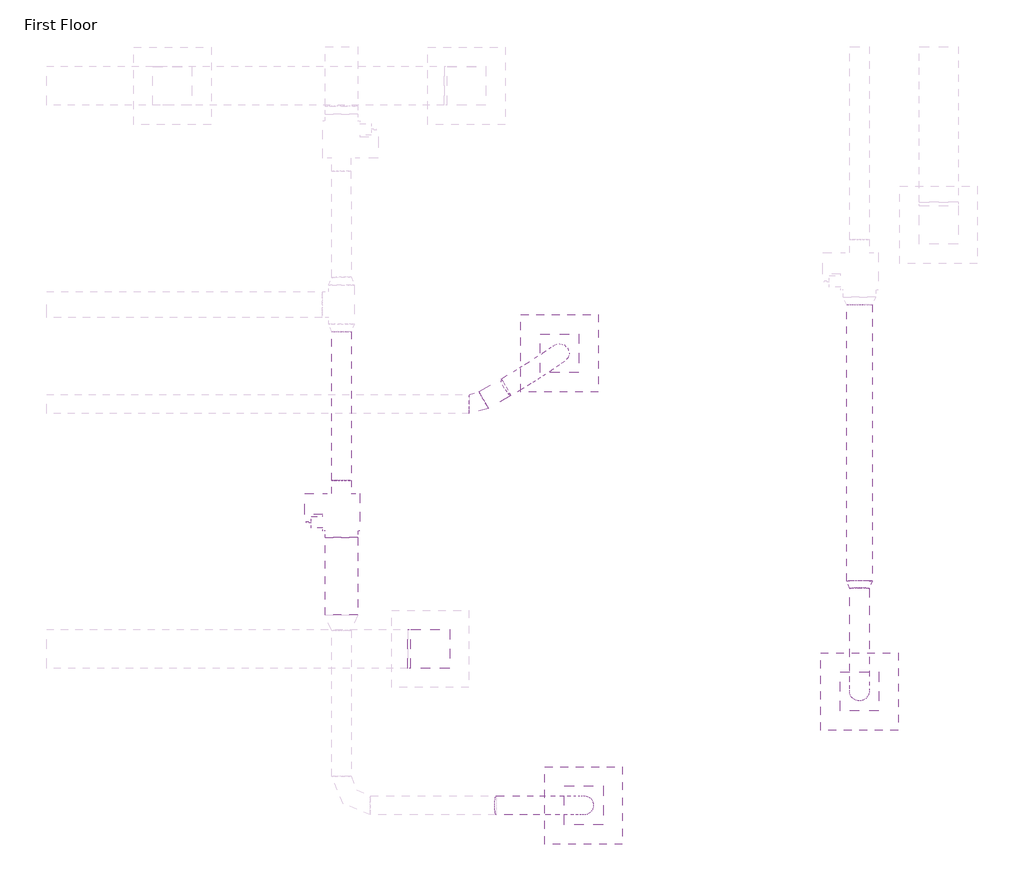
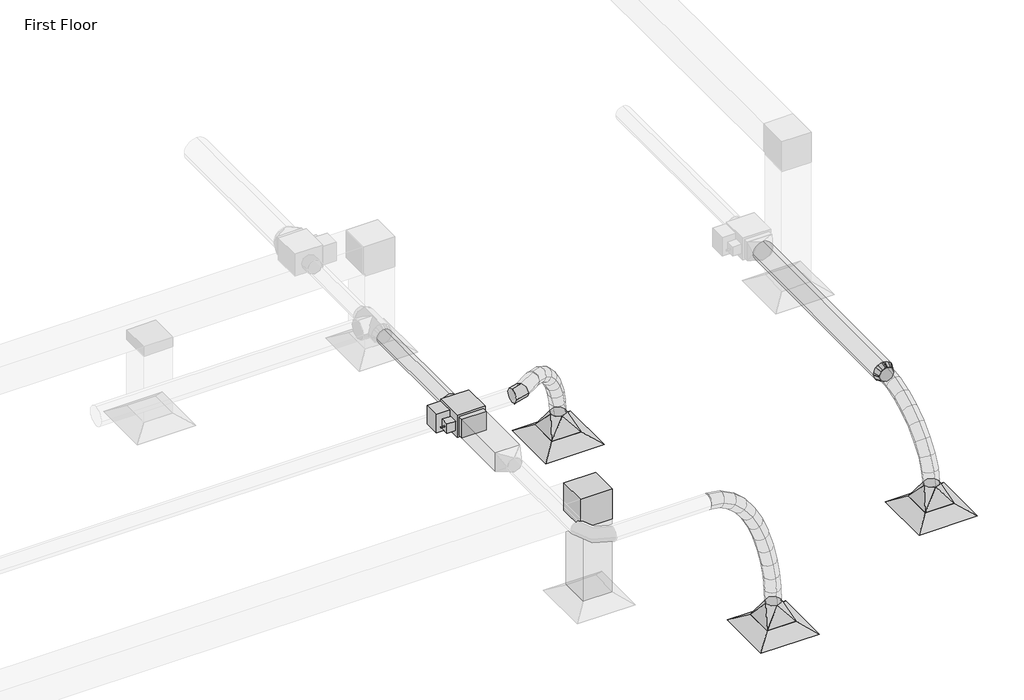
# One storey, part 48 of 61: 8 duct segments, 6 duct fittings, 3 air terminals, 1 proxy.
"""IFC4 building model written with IfcOpenShell, lengths in millimetres."""

from ifc_helpers import new_model, si_unit, point, frame, frame_2d, origin, place, context, project, spatial, polyline, circle_curve, ellipse_curve, trimmed, segment, composite_curve, outline, extrude, transform, mapped, element, save
from ifc_brep_helpers import plane_surface, cylinder_surface, advanced_brep
from components import m_exhaust_grill_er_600_x_600_face_300_x_300_connection_ff221211, m_vav_unit_single_duct_150_mm_ffdab17b, m_rectangular_elbow_mitered_standard_8eee5933, m_rectangular_to_round_transition_angle_45_degree_8f201c83, m_round_elbow_1_5_d_5294a869, m_round_transition_angle_45_degree_6d7b59ce

model = new_model("IFC4")

# Units and contexts
model_context = context("Model", 3, world=origin())
ifc_project = project(units=[si_unit("LENGTHUNIT", "METRE", prefix="MILLI")], contexts=[model_context])

# Site, building, storey
site = spatial("IfcSite", under=ifc_project)
building = spatial("IfcBuilding", under=site)
storey = spatial("IfcBuildingStorey", under=building, Name="First Floor", Elevation=0.0)

# Air terminals
placement = place(None, origin())
m_exhaust_grill_er_600_x_600_face_300_x_300_connection_shape = m_exhaust_grill_er_600_x_600_face_300_x_300_connection_ff221211(model_context)
element("IfcAirTerminal", 1, ObjectType="M_Supply Diffuser : SD-600 x 600 Face 300 x 300 Connection", at=placement, inside=storey, context=model_context, shape_type="MappedRepresentation", body=[
    mapped(m_exhaust_grill_er_600_x_600_face_300_x_300_connection_shape, transform((-19243.7025552, 37174.1707995, 2680.0), x_axis=(1.0, 0.0, 0.0), y_axis=(0.0, 1.0, 0.0), z_axis=(0.0, 0.0, 1.0))),
])
element("IfcAirTerminal", 2, ObjectType="M_Supply Diffuser : SD-600 x 600 Face 300 x 300 Connection", at=placement, inside=storey, context=model_context, shape_type="MappedRepresentation", body=[
    mapped(m_exhaust_grill_er_600_x_600_face_300_x_300_connection_shape, transform((-21379.3328097, 36291.042011, 2680.0), x_axis=(1.0, 0.0, 0.0), y_axis=(0.0, 1.0, 0.0), z_axis=(0.0, 0.0, 1.0))),
])
element("IfcAirTerminal", 3, ObjectType="M_Supply Diffuser : SD-600 x 600 Face 300 x 300 Connection", at=placement, inside=storey, context=model_context, shape_type="MappedRepresentation", body=[
    mapped(m_exhaust_grill_er_600_x_600_face_300_x_300_connection_shape, transform((-21566.6894497, 39795.7306312, 2680.0), x_axis=(1.0, 0.0, 0.0), y_axis=(0.0, 1.0, 0.0), z_axis=(0.0, 0.0, 1.0))),
])

# Proxy
m_vav_unit_single_duct_150_mm_shape = m_vav_unit_single_duct_150_mm_ffdab17b(model_context)
element("IfcBuildingElementProxy", 4, Name="M_VAV Unit - Single Duct : 150 mm", ObjectType="M_VAV Unit - Single Duct : 150 mm", at=placement, inside=storey, context=model_context, shape_type="MappedRepresentation", body=[
    mapped(m_vav_unit_single_duct_150_mm_shape, transform((-23256.5951693, 38708.9512227, 4159.975), x_axis=(0.0, -1.0, 0.0), y_axis=(1.0000000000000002, 0.0, 0.0), z_axis=(0.0, 0.0, 1.0000000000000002))),
])

# Duct fittings
m_rectangular_elbow_mitered_standard_shape = m_rectangular_elbow_mitered_standard_8eee5933(model_context)
element("IfcDuctFitting", 5, ObjectType="M_Rectangular Elbow - Mitered : Standard", at=placement, inside=storey, context=model_context, shape_type="MappedRepresentation", body=[
    mapped(m_rectangular_elbow_mitered_standard_shape, transform((-22568.0356534, 37503.8775197, 3750.0), x_axis=(0.0, 0.0, 1.0), y_axis=(-1.0, 0.0, 0.0), z_axis=(0.0, -1.0, 0.0))),
])
m_rectangular_to_round_transition_angle_45_degree_shape = m_rectangular_to_round_transition_angle_45_degree_8f201c83(model_context)
element("IfcDuctFitting", 6, ObjectType="M_Rectangular to Round Transition - Angle : 45 Degree", at=placement, inside=storey, context=model_context, shape_type="MappedRepresentation", body=[
    mapped(m_rectangular_to_round_transition_angle_45_degree_shape, transform((-19243.7025552, 37174.1707995, 2781.6), x_axis=(0.0, 0.0, 1.0), y_axis=(1.0, 0.0, 0.0), z_axis=(0.0, 1.0, 0.0))),
])
element("IfcDuctFitting", 7, ObjectType="M_Rectangular to Round Transition - Angle : 45 Degree", at=placement, inside=storey, context=model_context, shape_type="MappedRepresentation", body=[
    mapped(m_rectangular_to_round_transition_angle_45_degree_shape, transform((-21566.6894497, 39795.7306312, 2781.6), x_axis=(0.0, 0.0, 1.0), y_axis=(1.0, 0.0, 0.0), z_axis=(0.0, 1.0, 0.0))),
])
element("IfcDuctFitting", 8, ObjectType="M_Rectangular to Round Transition - Angle : 45 Degree", at=placement, inside=storey, context=model_context, shape_type="MappedRepresentation", body=[
    mapped(m_rectangular_to_round_transition_angle_45_degree_shape, transform((-21379.3328097, 36291.042011, 2781.6), x_axis=(0.0, 0.0, 1.0), y_axis=(1.0, 0.0, 0.0), z_axis=(0.0, 1.0, 0.0))),
])
m_round_elbow_1_5_d_shape = m_round_elbow_1_5_d_5294a869(model_context)
element("IfcDuctFitting", 9, ObjectType="M_Round Elbow : 1.5 D", at=placement, inside=storey, context=model_context, shape_type="MappedRepresentation", body=[
    mapped(m_round_elbow_1_5_d_shape, transform((-22206.3408383, 39401.9183838, 3619.1), x_axis=(1.0, 0.0, 0.0), y_axis=(0.0, 1.0, 0.0), z_axis=(0.0, 0.0, 1.0))),
])
m_round_transition_angle_45_degree_shape = m_round_transition_angle_45_degree_6d7b59ce(model_context)
element("IfcDuctFitting", 10, ObjectType="M_Round Transition - Angle : 45 Degree", at=placement, inside=storey, context=model_context, shape_type="MappedRepresentation", body=[
    mapped(m_round_transition_angle_45_degree_shape, transform((-19243.7025552, 38032.1003018, 3659.6), x_axis=(0.0, -0.9999900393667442, -0.004463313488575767), y_axis=(1.0, 0.0, 0.0), z_axis=(0.0, -0.004463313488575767, 0.9999900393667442))),
])

# Duct segments
element("IfcDuctSegment", 11, ObjectType="Flex - Round", at=placement, inside=storey, context=model_context, shape_type="AdvancedBrep", body=[
    advanced_brep(
    [(-19168.7025552, 37971.7455639, 3659.3306152), (-19243.7025552, 37980.4835114, 3584.8413658), (-19318.7025552, 37971.7455639, 3659.3306152), (-19243.7025552, 37963.0076164, 3733.8198646), (-19168.7025552, 37836.126803, 3643.4218817), (-19243.7025552, 37852.0318652, 3569.7733693), (-19318.7025552, 37836.126803, 3643.4218817), (-19243.7025552, 37820.2217407, 3717.070394), (-19168.7025552, 37174.1707995, 2962.6660172), (-19243.7025552, 37100.0096876, 2973.852146), (-19318.7025552, 37174.1707995, 2962.6660172), (-19243.7025552, 37248.3319114, 2951.4798883), (-19168.7025552, 37698.2050404, 3599.4524075), (-19243.7025552, 37726.791731, 3529.8467998), (-19318.7025552, 37698.2050404, 3599.4524075), (-19243.7025552, 37669.6183498, 3669.0580152), (-19168.7025552, 37564.2634793, 3531.2848), (-19243.7025552, 37603.3155351, 3467.0053876), (-19318.7025552, 37564.2634793, 3531.2848), (-19243.7025552, 37525.2114234, 3595.5642124), (-19168.7025552, 37440.5853226, 3442.7816664), (-19243.7025552, 37488.9403957, 3385.1594213), (-19318.7025552, 37440.5853226, 3442.7816664), (-19243.7025552, 37392.2302494, 3500.4039116), (-19168.7025552, 37333.4537732, 3337.8056141), (-19243.7025552, 37390.6055403, 3288.8030725), (-19318.7025552, 37333.4537732, 3337.8056141), (-19243.7025552, 37276.3020062, 3386.8081556), (-19168.7025552, 37249.1520343, 3220.2192502), (-19243.7025552, 37314.714054, 3182.9475584), (-19318.7025552, 37249.1520343, 3220.2192502), (-19243.7025552, 37183.5900146, 3257.490942), (-19168.7025552, 37193.9633087, 3093.8851822), (-19243.7025552, 37266.6497114, 3072.9221163), (-19318.7025552, 37193.9633087, 3093.8851822), (-19243.7025552, 37121.276906, 3114.848248)],
    [
        (0, 1, circle_curve(frame((-19243.7025552, 37971.7455639, 3659.3306152), z_axis=(0.0, 0.993189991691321, 0.11650596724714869), x_axis=(1.0, 0.0, 0.0)), 75.0)),
        (1, 2, circle_curve(frame((-19243.7025552, 37971.7455639, 3659.3306152), z_axis=(0.0, 0.993189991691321, 0.11650596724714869), x_axis=(1.0, 0.0, 0.0)), 75.0)),
        (2, 3, circle_curve(frame((-19243.7025552, 37971.7455639, 3659.3306152), z_axis=(0.0, 0.993189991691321, 0.11650596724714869), x_axis=(1.0, 0.0, 0.0)), 75.0)),
        (3, 0, circle_curve(frame((-19243.7025552, 37971.7455639, 3659.3306152), z_axis=(0.0, 0.993189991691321, 0.11650596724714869), x_axis=(1.0, 0.0, 0.0)), 75.0)),
        (0, 4),
        (4, 5, ellipse_curve(frame((-19243.7025552, 37836.126803, 3643.4218817), z_axis=(0.0, 0.9774660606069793, 0.21109263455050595), x_axis=(0.0, 0.21109263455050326, -0.9774660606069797)), 75.3463627, 75.0)),
        (5, 1),
        (5, 6, ellipse_curve(frame((-19243.7025552, 37836.126803, 3643.4218817), z_axis=(0.0, 0.9774660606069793, 0.21109263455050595), x_axis=(0.0, 0.21109263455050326, -0.9774660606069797)), 75.3463627, 75.0)),
        (6, 2),
        (6, 7, ellipse_curve(frame((-19243.7025552, 37836.126803, 3643.4218817), z_axis=(0.0, 0.9774660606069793, 0.21109263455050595), x_axis=(0.0, 0.21109263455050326, -0.9774660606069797)), 75.3463627, 75.0)),
        (7, 3),
        (7, 4, ellipse_curve(frame((-19243.7025552, 37836.126803, 3643.4218817), z_axis=(0.0, 0.9774660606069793, 0.21109263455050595), x_axis=(0.0, 0.21109263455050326, -0.9774660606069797)), 75.3463627, 75.0)),
        (8, 9, circle_curve(frame((-19243.7025552, 37174.1707995, 2962.6660172), z_axis=(0.0, -0.14914838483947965, -0.9888148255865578), x_axis=(1.0, 0.0, 0.0)), 75.0)),
        (9, 10, circle_curve(frame((-19243.7025552, 37174.1707995, 2962.6660172), z_axis=(0.0, -0.14914838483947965, -0.9888148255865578), x_axis=(1.0, 0.0, 0.0)), 75.0)),
        (10, 11, circle_curve(frame((-19243.7025552, 37174.1707995, 2962.6660172), z_axis=(0.0, -0.14914838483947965, -0.9888148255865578), x_axis=(1.0, 0.0, 0.0)), 75.0)),
        (11, 8, circle_curve(frame((-19243.7025552, 37174.1707995, 2962.6660172), z_axis=(0.0, -0.14914838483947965, -0.9888148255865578), x_axis=(1.0, 0.0, 0.0)), 75.0)),
        (4, 12),
        (12, 13, ellipse_curve(frame((-19243.7025552, 37698.2050404, 3599.4524075), z_axis=(0.0, 0.925026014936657, 0.37990376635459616), x_axis=(0.0, 0.3799037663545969, -0.9250260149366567)), 75.2471893, 75.0)),
        (13, 5),
        (13, 14, ellipse_curve(frame((-19243.7025552, 37698.2050404, 3599.4524075), z_axis=(0.0, 0.925026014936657, 0.37990376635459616), x_axis=(0.0, 0.3799037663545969, -0.9250260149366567)), 75.2471893, 75.0)),
        (14, 6),
        (14, 15, ellipse_curve(frame((-19243.7025552, 37698.2050404, 3599.4524075), z_axis=(0.0, 0.925026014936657, 0.37990376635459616), x_axis=(0.0, 0.3799037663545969, -0.9250260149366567)), 75.2471893, 75.0)),
        (15, 7),
        (15, 12, ellipse_curve(frame((-19243.7025552, 37698.2050404, 3599.4524075), z_axis=(0.0, 0.925026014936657, 0.37990376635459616), x_axis=(0.0, 0.3799037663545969, -0.9250260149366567)), 75.2471893, 75.0)),
        (12, 16),
        (16, 17, ellipse_curve(frame((-19243.7025552, 37564.2634793, 3531.2848), z_axis=(0.0, 0.8546384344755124, 0.5192235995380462), x_axis=(0.0, 0.5192235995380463, -0.8546384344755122)), 75.2124054, 75.0)),
        (17, 13),
        (17, 18, ellipse_curve(frame((-19243.7025552, 37564.2634793, 3531.2848), z_axis=(0.0, 0.8546384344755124, 0.5192235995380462), x_axis=(0.0, 0.5192235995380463, -0.8546384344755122)), 75.2124054, 75.0)),
        (18, 14),
        (18, 19, ellipse_curve(frame((-19243.7025552, 37564.2634793, 3531.2848), z_axis=(0.0, 0.8546384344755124, 0.5192235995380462), x_axis=(0.0, 0.5192235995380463, -0.8546384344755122)), 75.2124054, 75.0)),
        (19, 15),
        (19, 16, ellipse_curve(frame((-19243.7025552, 37564.2634793, 3531.2848), z_axis=(0.0, 0.8546384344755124, 0.5192235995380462), x_axis=(0.0, 0.5192235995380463, -0.8546384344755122)), 75.2124054, 75.0)),
        (16, 20),
        (20, 21, ellipse_curve(frame((-19243.7025552, 37440.5853226, 3442.7816664), z_axis=(0.0, 0.7660165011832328, 0.6428209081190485), x_axis=(0.0, 0.6428209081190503, -0.7660165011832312)), 75.2232426, 75.0)),
        (21, 17),
        (21, 22, ellipse_curve(frame((-19243.7025552, 37440.5853226, 3442.7816664), z_axis=(0.0, 0.7660165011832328, 0.6428209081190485), x_axis=(0.0, 0.6428209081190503, -0.7660165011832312)), 75.2232426, 75.0)),
        (22, 18),
        (22, 23, ellipse_curve(frame((-19243.7025552, 37440.5853226, 3442.7816664), z_axis=(0.0, 0.7660165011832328, 0.6428209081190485), x_axis=(0.0, 0.6428209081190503, -0.7660165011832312)), 75.2232426, 75.0)),
        (23, 19),
        (23, 20, ellipse_curve(frame((-19243.7025552, 37440.5853226, 3442.7816664), z_axis=(0.0, 0.7660165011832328, 0.6428209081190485), x_axis=(0.0, 0.6428209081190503, -0.7660165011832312)), 75.2232426, 75.0)),
        (20, 24),
        (24, 25, ellipse_curve(frame((-19243.7025552, 37333.4537732, 3337.8056141), z_axis=(0.0, 0.6509086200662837, 0.7591560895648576), x_axis=(0.0, 0.759156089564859, -0.6509086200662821)), 75.2832887, 75.0)),
        (25, 21),
        (25, 26, ellipse_curve(frame((-19243.7025552, 37333.4537732, 3337.8056141), z_axis=(0.0, 0.6509086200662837, 0.7591560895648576), x_axis=(0.0, 0.759156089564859, -0.6509086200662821)), 75.2832887, 75.0)),
        (26, 22),
        (26, 27, ellipse_curve(frame((-19243.7025552, 37333.4537732, 3337.8056141), z_axis=(0.0, 0.6509086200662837, 0.7591560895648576), x_axis=(0.0, 0.759156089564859, -0.6509086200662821)), 75.2832887, 75.0)),
        (27, 23),
        (27, 24, ellipse_curve(frame((-19243.7025552, 37333.4537732, 3337.8056141), z_axis=(0.0, 0.6509086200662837, 0.7591560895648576), x_axis=(0.0, 0.759156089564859, -0.6509086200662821)), 75.2832887, 75.0)),
        (24, 28),
        (28, 29, ellipse_curve(frame((-19243.7025552, 37249.1520343, 3220.2192502), z_axis=(0.0, 0.49421532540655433, 0.8693395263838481), x_axis=(0.0, 0.8693395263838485, -0.4942153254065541)), 75.4158965, 75.0)),
        (29, 25),
        (29, 30, ellipse_curve(frame((-19243.7025552, 37249.1520343, 3220.2192502), z_axis=(0.0, 0.49421532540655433, 0.8693395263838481), x_axis=(0.0, 0.8693395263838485, -0.4942153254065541)), 75.4158965, 75.0)),
        (30, 26),
        (30, 31, ellipse_curve(frame((-19243.7025552, 37249.1520343, 3220.2192502), z_axis=(0.0, 0.49421532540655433, 0.8693395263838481), x_axis=(0.0, 0.8693395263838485, -0.4942153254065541)), 75.4158965, 75.0)),
        (31, 27),
        (31, 28, ellipse_curve(frame((-19243.7025552, 37249.1520343, 3220.2192502), z_axis=(0.0, 0.49421532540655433, 0.8693395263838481), x_axis=(0.0, 0.8693395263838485, -0.4942153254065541)), 75.4158965, 75.0)),
        (28, 32),
        (32, 33, ellipse_curve(frame((-19243.7025552, 37193.9633087, 3093.8851822), z_axis=(0.0, 0.27710981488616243, 0.9608382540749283), x_axis=(0.0, 0.9608382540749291, -0.2771098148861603)), 75.6489475, 75.0)),
        (33, 29),
        (33, 34, ellipse_curve(frame((-19243.7025552, 37193.9633087, 3093.8851822), z_axis=(0.0, 0.27710981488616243, 0.9608382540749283), x_axis=(0.0, 0.9608382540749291, -0.2771098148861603)), 75.6489475, 75.0)),
        (34, 30),
        (34, 35, ellipse_curve(frame((-19243.7025552, 37193.9633087, 3093.8851822), z_axis=(0.0, 0.27710981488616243, 0.9608382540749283), x_axis=(0.0, 0.9608382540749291, -0.2771098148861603)), 75.6489475, 75.0)),
        (35, 31),
        (35, 32, ellipse_curve(frame((-19243.7025552, 37193.9633087, 3093.8851822), z_axis=(0.0, 0.27710981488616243, 0.9608382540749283), x_axis=(0.0, 0.9608382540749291, -0.2771098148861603)), 75.6489475, 75.0)),
        (32, 8),
        (11, 33),
        (10, 34),
        (9, 35),
    ],
    [
        plane_surface(frame((-19243.7025552, 37980.4835114, 3584.8413658), z_axis=(0.0, 0.99318999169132, 0.1165059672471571), x_axis=(1.0, 0.0, 0.0))),
        cylinder_surface(frame((-19243.7025552, 37971.7455639, 3659.3306152), z_axis=(0.0, 0.993189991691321, 0.11650596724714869), x_axis=(1.0, 0.0, 0.0)), 75.0),
        plane_surface(frame((-19243.7025552, 37248.3319114, 2951.4798883), z_axis=(0.0, -0.14914838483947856, -0.9888148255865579), x_axis=(1.0, 0.0, 0.0))),
        cylinder_surface(frame((-19243.7025552, 37836.126803, 3643.4218817), z_axis=(0.0, 0.9527554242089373, 0.3037385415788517), x_axis=(1.0, 0.0, 0.0)), 75.0),
        cylinder_surface(frame((-19243.7025552, 37698.2050404, 3599.4524075), z_axis=(0.0, 0.8912191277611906, 0.4535729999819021), x_axis=(1.0, 0.0, 0.0)), 75.0),
        cylinder_surface(frame((-19243.7025552, 37564.2634793, 3531.2848), z_axis=(0.0, 0.8132306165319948, 0.5819415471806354), x_axis=(1.0, 0.0, 0.0)), 75.0),
        cylinder_surface(frame((-19243.7025552, 37440.5853226, 3442.7816664), z_axis=(0.0, 0.7142557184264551, 0.6998848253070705), x_axis=(1.0, 0.0, 0.0)), 75.0),
        cylinder_surface(frame((-19243.7025552, 37333.4537732, 3337.8056141), z_axis=(0.0, 0.5826628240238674, 0.8127139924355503), x_axis=(1.0, 0.0, 0.0)), 75.0),
        cylinder_surface(frame((-19243.7025552, 37249.1520343, 3220.2192502), z_axis=(0.0, 0.4003169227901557, 0.916376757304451), x_axis=(1.0, 0.0, 0.0)), 75.0),
        cylinder_surface(frame((-19243.7025552, 37193.9633087, 3093.8851822), z_axis=(0.0, 0.14914838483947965, 0.9888148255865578), x_axis=(1.0, 0.0, 0.0)), 75.0),
    ],
    [
        (0, [[1, 2, 3, 4]]),
        (1, [[-1, 5, 6, 7]]),
        (1, [[-2, -7, 8, 9]]),
        (1, [[-3, -9, 10, 11]]),
        (1, [[-4, -11, 12, -5]]),
        (2, [[13, 14, 15, 16]]),
        (3, [[-6, 17, 18, 19]]),
        (3, [[-8, -19, 20, 21]]),
        (3, [[-10, -21, 22, 23]]),
        (3, [[-12, -23, 24, -17]]),
        (4, [[-18, 25, 26, 27]]),
        (4, [[-20, -27, 28, 29]]),
        (4, [[-22, -29, 30, 31]]),
        (4, [[-24, -31, 32, -25]]),
        (5, [[-26, 33, 34, 35]]),
        (5, [[-28, -35, 36, 37]]),
        (5, [[-30, -37, 38, 39]]),
        (5, [[-32, -39, 40, -33]]),
        (6, [[-34, 41, 42, 43]]),
        (6, [[-36, -43, 44, 45]]),
        (6, [[-38, -45, 46, 47]]),
        (6, [[-40, -47, 48, -41]]),
        (7, [[-42, 49, 50, 51]]),
        (7, [[-44, -51, 52, 53]]),
        (7, [[-46, -53, 54, 55]]),
        (7, [[-48, -55, 56, -49]]),
        (8, [[-50, 57, 58, 59]]),
        (8, [[-52, -59, 60, 61]]),
        (8, [[-54, -61, 62, 63]]),
        (8, [[-56, -63, 64, -57]]),
        (9, [[-58, 65, -16, 66]]),
        (9, [[-60, -66, -15, 67]]),
        (9, [[-62, -67, -14, 68]]),
        (9, [[-64, -68, -13, -65]]),
    ],
),
])
element("IfcDuctSegment", 12, ObjectType="Flex - Round", at=placement, inside=storey, context=model_context, shape_type="AdvancedBrep", body=[
    advanced_brep(
    [(-22019.3465211, 39596.4774765, 3619.1), (-21993.4953064, 39524.6332203, 3545.4785524), (-21943.0019456, 39467.3592911, 3619.1), (-21968.8531602, 39539.2035473, 3692.7214476), (-21922.390417, 39653.8053625, 3597.2008616), (-21906.724724, 39575.9386446, 3525.8799824), (-21844.9820623, 39525.316165, 3596.9605895), (-21860.6477554, 39603.1828829, 3668.2814687), (-21606.4200945, 39859.3409784, 2963.112768), (-21503.4024078, 39835.2042254, 2970.5136725), (-21526.9588048, 39732.120284, 2962.2192663), (-21629.9764915, 39756.2570369, 2954.8183619), (-21834.9345969, 39707.7699818, 3537.3971476), (-21834.8401406, 39620.2950312, 3476.7241337), (-21756.0472846, 39580.1933752, 3536.1455402), (-21756.1417408, 39667.6683257, 3596.8185542), (-21758.4447154, 39756.6982129, 3447.8105295), (-21768.0507937, 39663.018128, 3398.4989932), (-21678.8910765, 39629.5478349, 3445.7785059), (-21669.2849983, 39723.2279199, 3495.0900421), (-21695.1717788, 39798.4370438, 3336.9611255), (-21710.9615638, 39700.6777948, 3298.4829762), (-21615.4215512, 39671.4163482, 3334.5846932), (-21599.6317662, 39769.1755972, 3373.0628425), (-21647.3026596, 39830.8647608, 3213.4418926), (-21667.3228856, 39730.2397072, 3185.879775), (-21567.6109549, 39703.8044204, 3211.2164703), (-21547.590729, 39804.429474, 3238.7785879), (-21616.9829649, 39851.8816935, 3085.8166288), (-21639.9476625, 39749.2155981, 3070.6487314), (-21537.4727998, 39724.6955139, 3084.3553643), (-21514.5081021, 39827.3616093, 3099.5232617)],
    [
        (0, 1, circle_curve(frame((-21981.1742333, 39531.9183838, 3619.1), z_axis=(-0.844966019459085, -0.49960872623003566, 0.19084953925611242), x_axis=(-0.5089638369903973, 0.8607879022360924, 0.0)), 75.0)),
        (1, 2, circle_curve(frame((-21981.1742333, 39531.9183838, 3619.1), z_axis=(-0.844966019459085, -0.49960872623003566, 0.19084953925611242), x_axis=(-0.5089638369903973, 0.8607879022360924, 0.0)), 75.0)),
        (2, 3, circle_curve(frame((-21981.1742333, 39531.9183838, 3619.1), z_axis=(-0.844966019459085, -0.49960872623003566, 0.19084953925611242), x_axis=(-0.5089638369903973, 0.8607879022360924, 0.0)), 75.0)),
        (3, 0, circle_curve(frame((-21981.1742333, 39531.9183838, 3619.1), z_axis=(-0.844966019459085, -0.49960872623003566, 0.19084953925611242), x_axis=(-0.5089638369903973, 0.8607879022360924, 0.0)), 75.0)),
        (0, 4),
        (4, 5, ellipse_curve(frame((-21883.6862397, 39589.5607638, 3597.0807256), z_axis=(-0.8015025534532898, -0.483523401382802, 0.35185050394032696), x_axis=(-0.3277169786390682, -0.1369956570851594, -0.934790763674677)), 76.067575, 75.0)),
        (5, 1),
        (5, 6, ellipse_curve(frame((-21883.6862397, 39589.5607638, 3597.0807256), z_axis=(-0.8015025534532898, -0.483523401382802, 0.35185050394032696), x_axis=(-0.3277169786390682, -0.1369956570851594, -0.934790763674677)), 76.067575, 75.0)),
        (6, 2),
        (6, 7, ellipse_curve(frame((-21883.6862397, 39589.5607638, 3597.0807256), z_axis=(-0.8015025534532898, -0.483523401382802, 0.35185050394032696), x_axis=(-0.3277169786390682, -0.1369956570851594, -0.934790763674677)), 76.067575, 75.0)),
        (7, 3),
        (7, 4, ellipse_curve(frame((-21883.6862397, 39589.5607638, 3597.0807256), z_axis=(-0.8015025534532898, -0.483523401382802, 0.35185050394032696), x_axis=(-0.3277169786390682, -0.1369956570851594, -0.934790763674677)), 76.067575, 75.0)),
        (8, 9, circle_curve(frame((-21566.6894497, 39795.7306312, 2962.6660172), z_axis=(0.08561017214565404, 0.06045616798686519, -0.9944928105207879), x_axis=(-0.5297419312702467, 0.8481379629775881, 0.005956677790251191)), 75.0)),
        (9, 10, circle_curve(frame((-21566.6894497, 39795.7306312, 2962.6660172), z_axis=(0.08561017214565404, 0.06045616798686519, -0.9944928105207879), x_axis=(-0.5297419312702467, 0.8481379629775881, 0.005956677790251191)), 75.0)),
        (10, 11, circle_curve(frame((-21566.6894497, 39795.7306312, 2962.6660172), z_axis=(0.08561017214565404, 0.06045616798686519, -0.9944928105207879), x_axis=(-0.5297419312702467, 0.8481379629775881, 0.005956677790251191)), 75.0)),
        (11, 8, circle_curve(frame((-21566.6894497, 39795.7306312, 2962.6660172), z_axis=(0.08561017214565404, 0.06045616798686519, -0.9944928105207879), x_axis=(-0.5297419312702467, 0.8481379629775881, 0.005956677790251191)), 75.0)),
        (4, 12),
        (12, 13, ellipse_curve(frame((-21795.4909407, 39643.9816785, 3536.7713439), z_axis=(-0.672933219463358, -0.4220695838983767, 0.6074686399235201), x_axis=(-0.5407365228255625, -0.2796849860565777, -0.7933349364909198)), 75.5991106, 75.0)),
        (13, 5),
        (13, 14, ellipse_curve(frame((-21795.4909407, 39643.9816785, 3536.7713439), z_axis=(-0.672933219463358, -0.4220695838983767, 0.6074686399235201), x_axis=(-0.5407365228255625, -0.2796849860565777, -0.7933349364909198)), 75.5991106, 75.0)),
        (14, 6),
        (14, 15, ellipse_curve(frame((-21795.4909407, 39643.9816785, 3536.7713439), z_axis=(-0.672933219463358, -0.4220695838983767, 0.6074686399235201), x_axis=(-0.5407365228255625, -0.2796849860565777, -0.7933349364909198)), 75.5991106, 75.0)),
        (15, 7),
        (15, 12, ellipse_curve(frame((-21795.4909407, 39643.9816785, 3536.7713439), z_axis=(-0.672933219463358, -0.4220695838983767, 0.6074686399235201), x_axis=(-0.5407365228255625, -0.2796849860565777, -0.7933349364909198)), 75.5991106, 75.0)),
        (12, 16),
        (16, 17, ellipse_curve(frame((-21718.667896, 39693.1230239, 3446.7945177), z_axis=(-0.5379079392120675, -0.34881543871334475, 0.7674521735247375), x_axis=(-0.6682854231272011, -0.3784822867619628, -0.6404262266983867)), 75.348957, 75.0)),
        (17, 13),
        (17, 18, ellipse_curve(frame((-21718.667896, 39693.1230239, 3446.7945177), z_axis=(-0.5379079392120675, -0.34881543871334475, 0.7674521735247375), x_axis=(-0.6682854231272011, -0.3784822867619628, -0.6404262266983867)), 75.348957, 75.0)),
        (18, 14),
        (18, 19, ellipse_curve(frame((-21718.667896, 39693.1230239, 3446.7945177), z_axis=(-0.5379079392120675, -0.34881543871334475, 0.7674521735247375), x_axis=(-0.6682854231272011, -0.3784822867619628, -0.6404262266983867)), 75.348957, 75.0)),
        (19, 15),
        (19, 16, ellipse_curve(frame((-21718.667896, 39693.1230239, 3446.7945177), z_axis=(-0.5379079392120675, -0.34881543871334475, 0.7674521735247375), x_axis=(-0.6682854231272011, -0.3784822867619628, -0.6404262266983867)), 75.348957, 75.0)),
        (16, 20),
        (20, 21, ellipse_curve(frame((-21655.296665, 39734.926696, 3335.7729093), z_axis=(-0.4124376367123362, -0.27519726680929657, 0.868424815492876), x_axis=(-0.7422683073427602, -0.45114378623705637, -0.49548667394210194)), 75.246981, 75.0)),
        (21, 17),
        (21, 22, ellipse_curve(frame((-21655.296665, 39734.926696, 3335.7729093), z_axis=(-0.4124376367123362, -0.27519726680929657, 0.868424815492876), x_axis=(-0.7422683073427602, -0.45114378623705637, -0.49548667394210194)), 75.246981, 75.0)),
        (22, 18),
        (22, 23, ellipse_curve(frame((-21655.296665, 39734.926696, 3335.7729093), z_axis=(-0.4124376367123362, -0.27519726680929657, 0.868424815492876), x_axis=(-0.7422683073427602, -0.45114378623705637, -0.49548667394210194)), 75.246981, 75.0)),
        (23, 19),
        (23, 20, ellipse_curve(frame((-21655.296665, 39734.926696, 3335.7729093), z_axis=(-0.4124376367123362, -0.27519726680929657, 0.868424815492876), x_axis=(-0.7422683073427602, -0.45114378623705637, -0.49548667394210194)), 75.246981, 75.0)),
        (20, 24),
        (24, 25, ellipse_curve(frame((-21607.4568073, 39767.3345906, 3212.3291814), z_axis=(-0.2904972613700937, -0.1985931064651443, 0.9360406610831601), x_axis=(-0.785513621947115, -0.5091228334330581, -0.3517986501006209)), 75.2300566, 75.0)),
        (25, 21),
        (25, 26, ellipse_curve(frame((-21607.4568073, 39767.3345906, 3212.3291814), z_axis=(-0.2904972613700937, -0.1985931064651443, 0.9360406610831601), x_axis=(-0.785513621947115, -0.5091228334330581, -0.3517986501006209)), 75.2300566, 75.0)),
        (26, 22),
        (26, 27, ellipse_curve(frame((-21607.4568073, 39767.3345906, 3212.3291814), z_axis=(-0.2904972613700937, -0.1985931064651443, 0.9360406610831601), x_axis=(-0.785513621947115, -0.5091228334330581, -0.3517986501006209)), 75.2300566, 75.0)),
        (27, 23),
        (27, 24, ellipse_curve(frame((-21607.4568073, 39767.3345906, 3212.3291814), z_axis=(-0.2904972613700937, -0.1985931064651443, 0.9360406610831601), x_axis=(-0.785513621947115, -0.5091228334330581, -0.3517986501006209)), 75.2300566, 75.0)),
        (24, 28),
        (28, 29, ellipse_curve(frame((-21577.2278823, 39788.2886037, 3085.0859965), z_axis=(-0.15752967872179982, -0.10975477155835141, 0.9813960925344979), x_axis=(-0.8095155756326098, -0.5548197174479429, -0.19198857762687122)), 75.2926736, 75.0)),
        (29, 25),
        (29, 30, ellipse_curve(frame((-21577.2278823, 39788.2886037, 3085.0859965), z_axis=(-0.15752967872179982, -0.10975477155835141, 0.9813960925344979), x_axis=(-0.8095155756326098, -0.5548197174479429, -0.19198857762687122)), 75.2926736, 75.0)),
        (30, 26),
        (30, 31, ellipse_curve(frame((-21577.2278823, 39788.2886037, 3085.0859965), z_axis=(-0.15752967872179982, -0.10975477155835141, 0.9813960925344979), x_axis=(-0.8095155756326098, -0.5548197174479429, -0.19198857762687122)), 75.2926736, 75.0)),
        (31, 27),
        (31, 28, ellipse_curve(frame((-21577.2278823, 39788.2886037, 3085.0859965), z_axis=(-0.15752967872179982, -0.10975477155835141, 0.9813960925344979), x_axis=(-0.8095155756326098, -0.5548197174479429, -0.19198857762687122)), 75.2926736, 75.0)),
        (28, 8),
        (11, 29),
        (10, 30),
        (9, 31),
    ],
    [
        plane_surface(frame((-21981.1742333, 39558.681997, 3689.1621796), z_axis=(-0.8449660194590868, -0.49960872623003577, 0.1908495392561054), x_axis=(0.534819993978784, -0.7893354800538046, 0.30152458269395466))),
        cylinder_surface(frame((-21981.1742333, 39531.9183838, 3619.1), z_axis=(-0.8449660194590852, -0.49960872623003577, 0.19084953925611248), x_axis=(-0.5089638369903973, 0.8607879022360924, 0.0)), 75.0),
        plane_surface(frame((-21566.6894497, 39870.5924314, 2967.2169375), z_axis=(0.08561017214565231, 0.06045616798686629, -0.994492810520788), x_axis=(0.9963287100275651, -0.005194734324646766, 0.08545242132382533))),
        cylinder_surface(frame((-21883.6862397, 39589.5607638, 3597.0807256), z_axis=(-0.7355416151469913, -0.45386599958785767, 0.5029753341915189), x_axis=(-0.5222291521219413, 0.8527853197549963, 0.005823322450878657)), 75.0),
        cylinder_surface(frame((-21795.4909407, 39643.9816785, 3536.7713439), z_axis=(-0.5996590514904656, -0.3835835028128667, 0.7023337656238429), x_axis=(-0.5289206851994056, 0.8485883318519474, 0.011863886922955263)), 75.0),
        cylinder_surface(frame((-21718.667896, 39693.1230239, 3446.7945177), z_axis=(-0.47117449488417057, -0.3108164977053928, 0.8254621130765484), x_axis=(-0.5314866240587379, 0.8469244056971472, 0.015524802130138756)), 75.0),
        cylinder_surface(frame((-21655.296665, 39734.926696, 3335.7729093), z_axis=(-0.35099331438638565, -0.23777149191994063, 0.905686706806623), x_axis=(-0.5318034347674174, 0.8467130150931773, 0.016191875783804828)), 75.0),
        cylinder_surface(frame((-21607.4568073, 39767.3345906, 3212.3291814), z_axis=(-0.22822450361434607, -0.158200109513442, 0.9606697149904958), x_axis=(-0.5309364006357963, 0.8473057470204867, 0.013398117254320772)), 75.0),
        cylinder_surface(frame((-21577.2278823, 39788.2886037, 3085.0859965), z_axis=(-0.08561017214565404, -0.06045616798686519, 0.9944928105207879), x_axis=(-0.5297419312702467, 0.8481379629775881, 0.005956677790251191)), 75.0),
    ],
    [
        (0, [[1, 2, 3, 4]]),
        (1, [[-1, 5, 6, 7]]),
        (1, [[-2, -7, 8, 9]]),
        (1, [[-3, -9, 10, 11]]),
        (1, [[-4, -11, 12, -5]]),
        (2, [[13, 14, 15, 16]]),
        (3, [[-6, 17, 18, 19]]),
        (3, [[-8, -19, 20, 21]]),
        (3, [[-10, -21, 22, 23]]),
        (3, [[-12, -23, 24, -17]]),
        (4, [[-18, 25, 26, 27]]),
        (4, [[-20, -27, 28, 29]]),
        (4, [[-22, -29, 30, 31]]),
        (4, [[-24, -31, 32, -25]]),
        (5, [[-26, 33, 34, 35]]),
        (5, [[-28, -35, 36, 37]]),
        (5, [[-30, -37, 38, 39]]),
        (5, [[-32, -39, 40, -33]]),
        (6, [[-34, 41, 42, 43]]),
        (6, [[-36, -43, 44, 45]]),
        (6, [[-38, -45, 46, 47]]),
        (6, [[-40, -47, 48, -41]]),
        (7, [[-42, 49, 50, 51]]),
        (7, [[-44, -51, 52, 53]]),
        (7, [[-46, -53, 54, 55]]),
        (7, [[-48, -55, 56, -49]]),
        (8, [[-50, 57, -16, 58]]),
        (8, [[-52, -58, -15, 59]]),
        (8, [[-54, -59, -14, 60]]),
        (8, [[-56, -60, -13, -57]]),
    ],
),
])
element("IfcDuctSegment", 13, ObjectType="Flex - Round", at=placement, inside=storey, context=model_context, shape_type="AdvancedBrep", body=[
    advanced_brep(
    [(-22056.5951693, 36366.042011, 4279.0), (-22067.9987557, 36291.042011, 4204.8720146), (-22056.5951693, 36216.042011, 4279.0), (-22045.1915828, 36291.042011, 4353.1279854), (-21929.6007513, 36366.042011, 4259.463629), (-21952.3652701, 36291.042011, 4187.0833692), (-21929.6007513, 36216.042011, 4259.463629), (-21906.8362325, 36291.042011, 4331.8438889), (-21379.3328097, 36366.042011, 2962.6660172), (-21304.3730914, 36291.042011, 2965.1237875), (-21379.3328097, 36216.042011, 2962.6660172), (-21454.292528, 36291.042011, 2960.2082468), (-21817.3928989, 36366.042011, 4204.3175472), (-21859.307704, 36291.042011, 4141.3489572), (-21817.3928989, 36216.042011, 4204.3175472), (-21775.4780938, 36291.042011, 4267.2861373), (-21719.404431, 36366.042011, 4118.7563012), (-21774.4683654, 36291.042011, 4067.2692244), (-21719.404431, 36216.042011, 4118.7563012), (-21664.3404965, 36291.042011, 4170.2433781), (-21635.0681665, 36366.042011, 4007.9744376), (-21698.2008706, 36291.042011, 3967.086281), (-21635.0681665, 36216.042011, 4007.9744376), (-21571.9354625, 36291.042011, 4048.8625943), (-21563.8169246, 36366.042011, 3877.1665031), (-21631.7529073, 36291.042011, 3845.0965359), (-21563.8169246, 36216.042011, 3877.1665031), (-21495.880942, 36291.042011, 3909.2364702), (-21505.0835242, 36366.042011, 3731.5270442), (-21575.9132254, 36291.042011, 3706.6325444), (-21505.0835242, 36216.042011, 3731.5270442), (-21434.2538231, 36291.042011, 3756.421544), (-21458.3007843, 36366.042011, 3576.2506077), (-21530.9188825, 36291.042011, 3557.2919706), (-21458.3007843, 36216.042011, 3576.2506077), (-21385.6826861, 36291.042011, 3595.2092448), (-21422.9015239, 36366.042011, 3416.53174), (-21496.6496911, 36291.042011, 3402.6718914), (-21422.9015239, 36216.042011, 3416.53174), (-21349.1533567, 36291.042011, 3430.3915886), (-21398.318562, 36366.042011, 3257.564988), (-21472.7816624, 36291.042011, 3248.3282848), (-21398.318562, 36216.042011, 3257.564988), (-21323.8554617, 36291.042011, 3266.8016912), (-21383.9847176, 36366.042011, 3104.5448982), (-21458.8699128, 36291.042011, 3099.8142426), (-21383.9847176, 36216.042011, 3104.5448982), (-21309.0995224, 36291.042011, 3109.2755538)],
    [
        (0, 1, circle_curve(frame((-22056.5951693, 36291.042011, 4279.0), z_axis=(-0.988373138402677, 0.0, 0.15204781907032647), x_axis=(0.0, 1.0, 0.0)), 75.0)),
        (1, 2, circle_curve(frame((-22056.5951693, 36291.042011, 4279.0), z_axis=(-0.988373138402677, 0.0, 0.15204781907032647), x_axis=(0.0, 1.0, 0.0)), 75.0)),
        (2, 3, circle_curve(frame((-22056.5951693, 36291.042011, 4279.0), z_axis=(-0.988373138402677, 0.0, 0.15204781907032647), x_axis=(0.0, 1.0, 0.0)), 75.0)),
        (3, 0, circle_curve(frame((-22056.5951693, 36291.042011, 4279.0), z_axis=(-0.988373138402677, 0.0, 0.15204781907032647), x_axis=(0.0, 1.0, 0.0)), 75.0)),
        (0, 4),
        (4, 5, ellipse_curve(frame((-21929.6007513, 36291.042011, 4259.463629), z_axis=(-0.9539317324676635, 0.0, 0.30002374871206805), x_axis=(-0.30002374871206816, 0.0, -0.9539317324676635)), 75.8757229, 75.0)),
        (5, 1),
        (5, 6, ellipse_curve(frame((-21929.6007513, 36291.042011, 4259.463629), z_axis=(-0.9539317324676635, 0.0, 0.30002374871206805), x_axis=(-0.30002374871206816, 0.0, -0.9539317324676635)), 75.8757229, 75.0)),
        (6, 2),
        (6, 7, ellipse_curve(frame((-21929.6007513, 36291.042011, 4259.463629), z_axis=(-0.9539317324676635, 0.0, 0.30002374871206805), x_axis=(-0.30002374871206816, 0.0, -0.9539317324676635)), 75.8757229, 75.0)),
        (7, 3),
        (7, 4, ellipse_curve(frame((-21929.6007513, 36291.042011, 4259.463629), z_axis=(-0.9539317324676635, 0.0, 0.30002374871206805), x_axis=(-0.30002374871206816, 0.0, -0.9539317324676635)), 75.8757229, 75.0)),
        (8, 9, circle_curve(frame((-21379.3328097, 36291.042011, 2962.6660172), z_axis=(0.03277027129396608, 0.0, -0.9994629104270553), x_axis=(0.0, 1.0, 0.0)), 75.0)),
        (9, 10, circle_curve(frame((-21379.3328097, 36291.042011, 2962.6660172), z_axis=(0.03277027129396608, 0.0, -0.9994629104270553), x_axis=(0.0, 1.0, 0.0)), 75.0)),
        (10, 11, circle_curve(frame((-21379.3328097, 36291.042011, 2962.6660172), z_axis=(0.03277027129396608, 0.0, -0.9994629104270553), x_axis=(0.0, 1.0, 0.0)), 75.0)),
        (11, 8, circle_curve(frame((-21379.3328097, 36291.042011, 2962.6660172), z_axis=(0.03277027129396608, 0.0, -0.9994629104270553), x_axis=(0.0, 1.0, 0.0)), 75.0)),
        (4, 12),
        (12, 13, ellipse_curve(frame((-21817.3928989, 36291.042011, 4204.3175472), z_axis=(-0.832442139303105, 0.0, 0.5541119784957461), x_axis=(-0.5541119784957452, 0.0, -0.8324421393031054)), 75.6432034, 75.0)),
        (13, 5),
        (13, 14, ellipse_curve(frame((-21817.3928989, 36291.042011, 4204.3175472), z_axis=(-0.832442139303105, 0.0, 0.5541119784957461), x_axis=(-0.5541119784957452, 0.0, -0.8324421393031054)), 75.6432034, 75.0)),
        (14, 6),
        (14, 15, ellipse_curve(frame((-21817.3928989, 36291.042011, 4204.3175472), z_axis=(-0.832442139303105, 0.0, 0.5541119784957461), x_axis=(-0.5541119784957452, 0.0, -0.8324421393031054)), 75.6432034, 75.0)),
        (15, 7),
        (15, 12, ellipse_curve(frame((-21817.3928989, 36291.042011, 4204.3175472), z_axis=(-0.832442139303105, 0.0, 0.5541119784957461), x_axis=(-0.5541119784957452, 0.0, -0.8324421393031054)), 75.6432034, 75.0)),
        (12, 16),
        (16, 17, ellipse_curve(frame((-21719.404431, 36291.042011, 4118.7563012), z_axis=(-0.6829848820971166, 0.0, 0.7304325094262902), x_axis=(-0.7304325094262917, 0.0, -0.6829848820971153)), 75.3853829, 75.0)),
        (17, 13),
        (17, 18, ellipse_curve(frame((-21719.404431, 36291.042011, 4118.7563012), z_axis=(-0.6829848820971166, 0.0, 0.7304325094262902), x_axis=(-0.7304325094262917, 0.0, -0.6829848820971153)), 75.3853829, 75.0)),
        (18, 14),
        (18, 19, ellipse_curve(frame((-21719.404431, 36291.042011, 4118.7563012), z_axis=(-0.6829848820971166, 0.0, 0.7304325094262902), x_axis=(-0.7304325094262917, 0.0, -0.6829848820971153)), 75.3853829, 75.0)),
        (19, 15),
        (19, 16, ellipse_curve(frame((-21719.404431, 36291.042011, 4118.7563012), z_axis=(-0.6829848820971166, 0.0, 0.7304325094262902), x_axis=(-0.7304325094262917, 0.0, -0.6829848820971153)), 75.3853829, 75.0)),
        (16, 20),
        (20, 21, ellipse_curve(frame((-21635.0681665, 36291.042011, 4007.9744376), z_axis=(-0.5436034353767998, 0.0, 0.8393421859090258), x_axis=(-0.839342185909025, 0.0, -0.5436034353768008)), 75.2168842, 75.0)),
        (21, 17),
        (21, 22, ellipse_curve(frame((-21635.0681665, 36291.042011, 4007.9744376), z_axis=(-0.5436034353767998, 0.0, 0.8393421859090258), x_axis=(-0.839342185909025, 0.0, -0.5436034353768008)), 75.2168842, 75.0)),
        (22, 18),
        (22, 23, ellipse_curve(frame((-21635.0681665, 36291.042011, 4007.9744376), z_axis=(-0.5436034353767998, 0.0, 0.8393421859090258), x_axis=(-0.839342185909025, 0.0, -0.5436034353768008)), 75.2168842, 75.0)),
        (23, 19),
        (23, 20, ellipse_curve(frame((-21635.0681665, 36291.042011, 4007.9744376), z_axis=(-0.5436034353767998, 0.0, 0.8393421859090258), x_axis=(-0.839342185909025, 0.0, -0.5436034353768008)), 75.2168842, 75.0)),
        (20, 24),
        (24, 25, ellipse_curve(frame((-21563.8169246, 36291.042011, 3877.1665031), z_axis=(-0.42688751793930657, 0.0, 0.9043047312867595), x_axis=(-0.9043047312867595, 0.0, -0.42688751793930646)), 75.1250992, 75.0)),
        (25, 21),
        (25, 26, ellipse_curve(frame((-21563.8169246, 36291.042011, 3877.1665031), z_axis=(-0.42688751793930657, 0.0, 0.9043047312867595), x_axis=(-0.9043047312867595, 0.0, -0.42688751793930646)), 75.1250992, 75.0)),
        (26, 22),
        (26, 27, ellipse_curve(frame((-21563.8169246, 36291.042011, 3877.1665031), z_axis=(-0.42688751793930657, 0.0, 0.9043047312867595), x_axis=(-0.9043047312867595, 0.0, -0.42688751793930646)), 75.1250992, 75.0)),
        (27, 23),
        (27, 24, ellipse_curve(frame((-21563.8169246, 36291.042011, 3877.1665031), z_axis=(-0.42688751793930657, 0.0, 0.9043047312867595), x_axis=(-0.9043047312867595, 0.0, -0.42688751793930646)), 75.1250992, 75.0)),
        (24, 28),
        (28, 29, ellipse_curve(frame((-21505.0835242, 36291.042011, 3731.5270442), z_axis=(-0.3315854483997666, 0.0, 0.9434251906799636), x_axis=(-0.9434251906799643, 0.0, -0.33158544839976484)), 75.0771782, 75.0)),
        (29, 25),
        (29, 30, ellipse_curve(frame((-21505.0835242, 36291.042011, 3731.5270442), z_axis=(-0.3315854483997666, 0.0, 0.9434251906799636), x_axis=(-0.9434251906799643, 0.0, -0.33158544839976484)), 75.0771782, 75.0)),
        (30, 26),
        (30, 31, ellipse_curve(frame((-21505.0835242, 36291.042011, 3731.5270442), z_axis=(-0.3315854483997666, 0.0, 0.9434251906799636), x_axis=(-0.9434251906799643, 0.0, -0.33158544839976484)), 75.0771782, 75.0)),
        (31, 27),
        (31, 28, ellipse_curve(frame((-21505.0835242, 36291.042011, 3731.5270442), z_axis=(-0.3315854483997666, 0.0, 0.9434251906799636), x_axis=(-0.9434251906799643, 0.0, -0.33158544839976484)), 75.0771782, 75.0)),
        (28, 32),
        (32, 33, ellipse_curve(frame((-21458.3007843, 36291.042011, 3576.2506077), z_axis=(-0.25260634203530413, 0.0, 0.9675691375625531), x_axis=(-0.9675691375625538, 0.0, -0.2526063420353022)), 75.0521026, 75.0)),
        (33, 29),
        (33, 34, ellipse_curve(frame((-21458.3007843, 36291.042011, 3576.2506077), z_axis=(-0.25260634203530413, 0.0, 0.9675691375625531), x_axis=(-0.9675691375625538, 0.0, -0.2526063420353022)), 75.0521026, 75.0)),
        (34, 30),
        (34, 35, ellipse_curve(frame((-21458.3007843, 36291.042011, 3576.2506077), z_axis=(-0.25260634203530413, 0.0, 0.9675691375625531), x_axis=(-0.9675691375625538, 0.0, -0.2526063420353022)), 75.0521026, 75.0)),
        (35, 31),
        (35, 32, ellipse_curve(frame((-21458.3007843, 36291.042011, 3576.2506077), z_axis=(-0.25260634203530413, 0.0, 0.9675691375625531), x_axis=(-0.9675691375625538, 0.0, -0.2526063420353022)), 75.0521026, 75.0)),
        (32, 36),
        (36, 37, ellipse_curve(frame((-21422.9015239, 36291.042011, 3416.53174), z_axis=(-0.18470134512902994, 0.0, 0.9827946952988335), x_axis=(-0.9827946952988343, 0.0, -0.18470134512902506)), 75.0392402, 75.0)),
        (37, 33),
        (37, 38, ellipse_curve(frame((-21422.9015239, 36291.042011, 3416.53174), z_axis=(-0.18470134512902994, 0.0, 0.9827946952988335), x_axis=(-0.9827946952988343, 0.0, -0.18470134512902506)), 75.0392402, 75.0)),
        (38, 34),
        (38, 39, ellipse_curve(frame((-21422.9015239, 36291.042011, 3416.53174), z_axis=(-0.18470134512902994, 0.0, 0.9827946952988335), x_axis=(-0.9827946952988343, 0.0, -0.18470134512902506)), 75.0392402, 75.0)),
        (39, 35),
        (39, 36, ellipse_curve(frame((-21422.9015239, 36291.042011, 3416.53174), z_axis=(-0.18470134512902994, 0.0, 0.9827946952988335), x_axis=(-0.9827946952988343, 0.0, -0.18470134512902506)), 75.0392402, 75.0)),
        (36, 40),
        (40, 41, ellipse_curve(frame((-21398.318562, 36291.042011, 3257.564988), z_axis=(-0.12310057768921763, 0.0, 0.9923941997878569), x_axis=(-0.9923941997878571, 0.0, -0.12310057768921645)), 75.0337924, 75.0)),
        (41, 37),
        (41, 42, ellipse_curve(frame((-21398.318562, 36291.042011, 3257.564988), z_axis=(-0.12310057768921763, 0.0, 0.9923941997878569), x_axis=(-0.9923941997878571, 0.0, -0.12310057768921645)), 75.0337924, 75.0)),
        (42, 38),
        (42, 43, ellipse_curve(frame((-21398.318562, 36291.042011, 3257.564988), z_axis=(-0.12310057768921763, 0.0, 0.9923941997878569), x_axis=(-0.9923941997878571, 0.0, -0.12310057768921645)), 75.0337924, 75.0)),
        (43, 39),
        (43, 40, ellipse_curve(frame((-21398.318562, 36291.042011, 3257.564988), z_axis=(-0.12310057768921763, 0.0, 0.9923941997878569), x_axis=(-0.9923941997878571, 0.0, -0.12310057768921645)), 75.0337924, 75.0)),
        (40, 44),
        (44, 45, ellipse_curve(frame((-21383.9847176, 36291.042011, 3104.5448982), z_axis=(-0.06304643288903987, 0.0, 0.998010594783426), x_axis=(-0.9980105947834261, 0.0, -0.06304643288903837)), 75.0344692, 75.0)),
        (45, 41),
        (45, 46, ellipse_curve(frame((-21383.9847176, 36291.042011, 3104.5448982), z_axis=(-0.06304643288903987, 0.0, 0.998010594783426), x_axis=(-0.9980105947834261, 0.0, -0.06304643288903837)), 75.0344692, 75.0)),
        (46, 42),
        (46, 47, ellipse_curve(frame((-21383.9847176, 36291.042011, 3104.5448982), z_axis=(-0.06304643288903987, 0.0, 0.998010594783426), x_axis=(-0.9980105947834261, 0.0, -0.06304643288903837)), 75.0344692, 75.0)),
        (47, 43),
        (47, 44, ellipse_curve(frame((-21383.9847176, 36291.042011, 3104.5448982), z_axis=(-0.06304643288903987, 0.0, 0.998010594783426), x_axis=(-0.9980105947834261, 0.0, -0.06304643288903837)), 75.0344692, 75.0)),
        (44, 8),
        (11, 45),
        (10, 46),
        (9, 47),
    ],
    [
        plane_surface(frame((-22056.5951693, 36366.042011, 4279.0), z_axis=(-0.9883731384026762, 0.0, 0.1520478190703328), x_axis=(0.1520478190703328, 0.0, 0.9883731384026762))),
        cylinder_surface(frame((-22056.5951693, 36291.042011, 4279.0), z_axis=(-0.988373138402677, 0.0, 0.15204781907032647), x_axis=(0.0, 1.0, 0.0)), 75.0),
        plane_surface(frame((-21379.3328097, 36366.042011, 2962.6660172), z_axis=(0.03277027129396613, 0.0, -0.9994629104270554), x_axis=(0.9994629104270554, 0.0, 0.03277027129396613))),
        cylinder_surface(frame((-21929.6007513, 36291.042011, 4259.463629), z_axis=(-0.8974706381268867, 0.0, 0.4410742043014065), x_axis=(0.0, 1.0, 0.0)), 75.0),
        cylinder_surface(frame((-21817.3928989, 36291.042011, 4204.3175472), z_axis=(-0.7532569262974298, 0.0, 0.6577263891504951), x_axis=(0.0, 1.0, 0.0)), 75.0),
        cylinder_surface(frame((-21719.404431, 36291.042011, 4118.7563012), z_axis=(-0.6057297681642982, 0.0, 0.7956704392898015), x_axis=(0.0, 1.0, 0.0)), 75.0),
        cylinder_surface(frame((-21635.0681665, 36291.042011, 4007.9744376), z_axis=(-0.47834219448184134, 0.0, 0.8781735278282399), x_axis=(0.0, 1.0, 0.0)), 75.0),
        cylinder_surface(frame((-21563.8169246, 36291.042011, 3877.1665031), z_axis=(-0.37401112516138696, 0.0, 0.9274242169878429), x_axis=(0.0, 1.0, 0.0)), 75.0),
        cylinder_surface(frame((-21505.0835242, 36291.042011, 3731.5270442), z_axis=(-0.28847804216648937, 0.0, 0.9574865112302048), x_axis=(0.0, 1.0, 0.0)), 75.0),
        cylinder_surface(frame((-21458.3007843, 36291.042011, 3576.2506077), z_axis=(-0.21638391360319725, 0.0, 0.9763083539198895), x_axis=(0.0, 1.0, 0.0)), 75.0),
        cylinder_surface(frame((-21422.9015239, 36291.042011, 3416.53174), z_axis=(-0.1528256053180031, 0.0, 0.9882531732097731), x_axis=(0.0, 1.0, 0.0)), 75.0),
        cylinder_surface(frame((-21398.318562, 36291.042011, 3257.564988), z_axis=(-0.0932646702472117, 0.0, 0.9956413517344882), x_axis=(0.0, 1.0, 0.0)), 75.0),
        cylinder_surface(frame((-21383.9847176, 36291.042011, 3104.5448982), z_axis=(-0.03277027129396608, 0.0, 0.9994629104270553), x_axis=(0.0, 1.0, 0.0)), 75.0),
    ],
    [
        (0, [[1, 2, 3, 4]]),
        (1, [[-1, 5, 6, 7]]),
        (1, [[-2, -7, 8, 9]]),
        (1, [[-3, -9, 10, 11]]),
        (1, [[-4, -11, 12, -5]]),
        (2, [[13, 14, 15, 16]]),
        (3, [[-6, 17, 18, 19]]),
        (3, [[-8, -19, 20, 21]]),
        (3, [[-10, -21, 22, 23]]),
        (3, [[-12, -23, 24, -17]]),
        (4, [[-18, 25, 26, 27]]),
        (4, [[-20, -27, 28, 29]]),
        (4, [[-22, -29, 30, 31]]),
        (4, [[-24, -31, 32, -25]]),
        (5, [[-26, 33, 34, 35]]),
        (5, [[-28, -35, 36, 37]]),
        (5, [[-30, -37, 38, 39]]),
        (5, [[-32, -39, 40, -33]]),
        (6, [[-34, 41, 42, 43]]),
        (6, [[-36, -43, 44, 45]]),
        (6, [[-38, -45, 46, 47]]),
        (6, [[-40, -47, 48, -41]]),
        (7, [[-42, 49, 50, 51]]),
        (7, [[-44, -51, 52, 53]]),
        (7, [[-46, -53, 54, 55]]),
        (7, [[-48, -55, 56, -49]]),
        (8, [[-50, 57, 58, 59]]),
        (8, [[-52, -59, 60, 61]]),
        (8, [[-54, -61, 62, 63]]),
        (8, [[-56, -63, 64, -57]]),
        (9, [[-58, 65, 66, 67]]),
        (9, [[-60, -67, 68, 69]]),
        (9, [[-62, -69, 70, 71]]),
        (9, [[-64, -71, 72, -65]]),
        (10, [[-66, 73, 74, 75]]),
        (10, [[-68, -75, 76, 77]]),
        (10, [[-70, -77, 78, 79]]),
        (10, [[-72, -79, 80, -73]]),
        (11, [[-74, 81, 82, 83]]),
        (11, [[-76, -83, 84, 85]]),
        (11, [[-78, -85, 86, 87]]),
        (11, [[-80, -87, 88, -81]]),
        (12, [[-82, 89, -16, 90]]),
        (12, [[-84, -90, -15, 91]]),
        (12, [[-86, -91, -14, 92]]),
        (12, [[-88, -92, -13, -89]]),
    ],
),
])
element("IfcDuctSegment", 14, ObjectType="Mitered Elbows / Taps", at=placement, inside=storey, context=model_context, shape_type="SweptSolid", body=[
    extrude(outline(polyline([(-22718.0356534, 37353.8775197), (-22718.0356534, 37653.8775197), (-22418.0356534, 37653.8775197), (-22418.0356534, 37353.8775197), (-22718.0356534, 37353.8775197)])), frame((0.0, 0.0, 2781.6), z_axis=(0.0, 0.0, 1.0), x_axis=(1.0, 0.0, 0.0)), (0.0, 0.0, 1.0), 793.4),
])
element("IfcDuctSegment", 15, ObjectType="Radius Elbows / Tees", at=placement, inside=storey, context=model_context, shape_type="SweptSolid", body=[
    extrude(outline(polyline([(0.0, -250.0), (0.0, 0.0), (600.0000005, 0.0), (600.0000005, -250.0), (0.0, -250.0)])), frame((-23131.5951693, 38366.1553894, 4179.0250001), z_axis=(0.0, -4.166666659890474e-05, 0.9999999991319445), x_axis=(0.0, -0.9999999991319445, -4.166666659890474e-05)), (0.0, 0.0, 1.0), 200.0),
])
element("IfcDuctSegment", 16, ObjectType="Taps", at=placement, inside=storey, context=model_context, shape_type="SweptSolid", body=[
    extrude(outline(composite_curve([segment(trimmed(circle_curve(frame_2d((0.0, -100.0)), 100.0), [point((-100.0, -100.0))], [point((0.0, 0.0))], False, "CARTESIAN"), True, "CONTINUOUS"), segment(trimmed(circle_curve(frame_2d((0.0, -100.0)), 100.0), [point((0.0, 0.0))], [point((100.0, -100.0))], False, "CARTESIAN"), True, "CONTINUOUS"), segment(trimmed(circle_curve(frame_2d((0.0, -100.0)), 100.0), [point((100.0, -100.0))], [point((0.0, -199.9999999))], False, "CARTESIAN"), True, "CONTINUOUS"), segment(trimmed(circle_curve(frame_2d((0.0, -100.0)), 100.0), [point((0.0, -199.9999999))], [point((-100.0, -100.0))], False, "CARTESIAN"), True, "CONTINUOUS")], self_intersect=False)), frame((-19243.7025552, 38032.5466331, 3559.6009961), z_axis=(0.0, 0.9999900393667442, 0.004463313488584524), x_axis=(1.0, 0.0, 0.0)), (0.0, 0.0, 1.0), 2139.6659734),
])
element("IfcDuctSegment", 17, ObjectType="Taps", at=placement, inside=storey, context=model_context, shape_type="SweptSolid", body=[
    extrude(outline(composite_curve([segment(trimmed(circle_curve(frame_2d((0.0, 75.0)), 75.0), [point((75.0, 75.0))], [point((0.0, 0.0))], False, "CARTESIAN"), True, "CONTINUOUS"), segment(trimmed(circle_curve(frame_2d((0.0, 75.0)), 75.0), [point((0.0, 0.0))], [point((-74.9999999, 75.0))], False, "CARTESIAN"), True, "CONTINUOUS"), segment(trimmed(circle_curve(frame_2d((0.0, 75.0)), 75.0), [point((-74.9999999, 75.0))], [point((0.0, 150.0))], False, "CARTESIAN"), True, "CONTINUOUS"), segment(trimmed(circle_curve(frame_2d((0.0, 75.0)), 75.0), [point((0.0, 150.0))], [point((75.0, 75.0))], False, "CARTESIAN"), True, "CONTINUOUS")], self_intersect=False)), frame((-22154.1294066, 39432.062668, 3694.1), z_axis=(0.8660254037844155, 0.5000000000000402, 0.0), x_axis=(0.5000000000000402, -0.8660254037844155, 0.0)), (0.0, 0.0, 1.0), 199.7114317),
])
element("IfcDuctSegment", 18, ObjectType="Tees", at=placement, inside=storey, context=model_context, shape_type="SweptSolid", body=[
    extrude(outline(composite_curve([segment(trimmed(circle_curve(frame_2d((4269.5, -23255.7451693)), 75.0), [point((4269.5, -23330.7451693))], [point((4194.5, -23255.7451693))], False, "CARTESIAN"), True, "CONTINUOUS"), segment(trimmed(circle_curve(frame_2d((4269.5, -23255.7451693)), 75.0), [point((4194.5, -23255.7451693))], [point((4269.5, -23180.7451693))], False, "CARTESIAN"), True, "CONTINUOUS"), segment(trimmed(circle_curve(frame_2d((4269.5, -23255.7451693)), 75.0), [point((4269.5, -23180.7451693))], [point((4344.5, -23255.7451693))], False, "CARTESIAN"), True, "CONTINUOUS"), segment(trimmed(circle_curve(frame_2d((4269.5, -23255.7451693)), 75.0), [point((4344.5, -23255.7451693))], [point((4269.5, -23330.7451693))], False, "CARTESIAN"), True, "CONTINUOUS")], self_intersect=False)), frame((0.0, 38810.5512227, 0.0), z_axis=(0.0, 1.0, 0.0), x_axis=(0.0, 0.0, 1.0)), (0.0, 0.0, 1.0), 1152.0493809),
])

save(model, "model.ifc")
